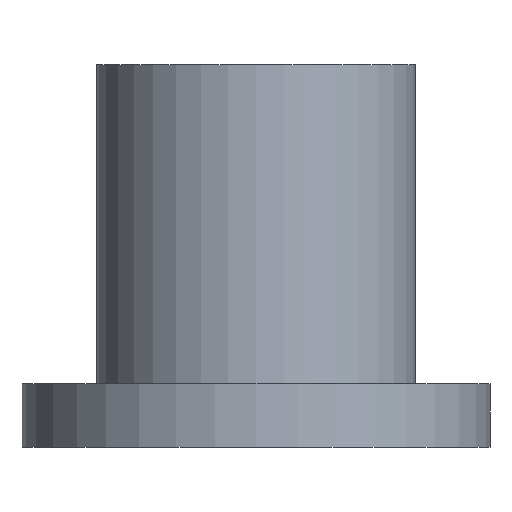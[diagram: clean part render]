
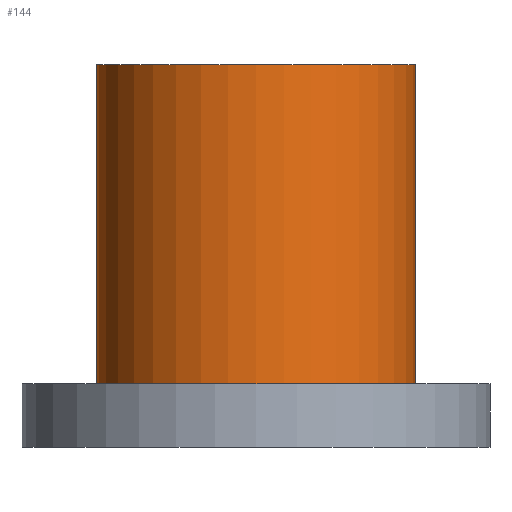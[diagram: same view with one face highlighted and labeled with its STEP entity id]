
A CAD part, front view. The second image highlights one B-rep face of the part: STEP entity #144.
In plain terms, the highlighted cylindrical face has radius 1.5 mm (diameter 3 mm), a full revolution.
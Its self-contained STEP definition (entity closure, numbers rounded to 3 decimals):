
#93 = PLANE('',#94);
#94 = AXIS2_PLACEMENT_3D('',#95,#96,#97);
#95 = CARTESIAN_POINT('',(0.,-20.,25.5));
#96 = DIRECTION('',(0.,0.,1.));
#97 = DIRECTION('',(1.,0.,-0.));
#116 = EDGE_CURVE('',#117,#117,#119,.T.);
#117 = VERTEX_POINT('',#118);
#118 = CARTESIAN_POINT('',(1.5,-20.,25.5));
#119 = SURFACE_CURVE('',#120,(#125,#132),.PCURVE_S1.);
#120 = CIRCLE('',#121,1.5);
#121 = AXIS2_PLACEMENT_3D('',#122,#123,#124);
#122 = CARTESIAN_POINT('',(0.,-20.,25.5));
#123 = DIRECTION('',(0.,0.,1.));
#124 = DIRECTION('',(1.,0.,-0.));
#125 = PCURVE('',#93,#126);
#126 = DEFINITIONAL_REPRESENTATION('',(#127),#131);
#127 = CIRCLE('',#128,1.5);
#128 = AXIS2_PLACEMENT_2D('',#129,#130);
#129 = CARTESIAN_POINT('',(0.,0.));
#130 = DIRECTION('',(1.,0.));
#131 = ( GEOMETRIC_REPRESENTATION_CONTEXT(2) 
PARAMETRIC_REPRESENTATION_CONTEXT() REPRESENTATION_CONTEXT('2D SPACE',''
  ) );
#132 = PCURVE('',#133,#138);
#133 = CYLINDRICAL_SURFACE('',#134,1.5);
#134 = AXIS2_PLACEMENT_3D('',#135,#136,#137);
#135 = CARTESIAN_POINT('',(0.,-20.,25.5));
#136 = DIRECTION('',(-0.,-0.,-1.));
#137 = DIRECTION('',(1.,0.,0.));
#138 = DEFINITIONAL_REPRESENTATION('',(#139),#143);
#139 = LINE('',#140,#141);
#140 = CARTESIAN_POINT('',(6.283,0.));
#141 = VECTOR('',#142,1.);
#142 = DIRECTION('',(-1.,0.));
#143 = ( GEOMETRIC_REPRESENTATION_CONTEXT(2) 
PARAMETRIC_REPRESENTATION_CONTEXT() REPRESENTATION_CONTEXT('2D SPACE',''
  ) );
#144 = ADVANCED_FACE('',(#145),#133,.T.);
#145 = FACE_BOUND('',#146,.T.);
#146 = EDGE_LOOP('',(#147,#148,#171,#198));
#147 = ORIENTED_EDGE('',*,*,#116,.T.);
#148 = ORIENTED_EDGE('',*,*,#149,.T.);
#149 = EDGE_CURVE('',#117,#150,#152,.T.);
#150 = VERTEX_POINT('',#151);
#151 = CARTESIAN_POINT('',(1.5,-20.,28.5));
#152 = SEAM_CURVE('',#153,(#157,#164),.PCURVE_S1.);
#153 = LINE('',#154,#155);
#154 = CARTESIAN_POINT('',(1.5,-20.,25.5));
#155 = VECTOR('',#156,1.);
#156 = DIRECTION('',(0.,0.,1.));
#157 = PCURVE('',#133,#158);
#158 = DEFINITIONAL_REPRESENTATION('',(#159),#163);
#159 = LINE('',#160,#161);
#160 = CARTESIAN_POINT('',(0.,0.));
#161 = VECTOR('',#162,1.);
#162 = DIRECTION('',(-0.,-1.));
#163 = ( GEOMETRIC_REPRESENTATION_CONTEXT(2) 
PARAMETRIC_REPRESENTATION_CONTEXT() REPRESENTATION_CONTEXT('2D SPACE',''
  ) );
#164 = PCURVE('',#133,#165);
#165 = DEFINITIONAL_REPRESENTATION('',(#166),#170);
#166 = LINE('',#167,#168);
#167 = CARTESIAN_POINT('',(6.283,0.));
#168 = VECTOR('',#169,1.);
#169 = DIRECTION('',(-0.,-1.));
#170 = ( GEOMETRIC_REPRESENTATION_CONTEXT(2) 
PARAMETRIC_REPRESENTATION_CONTEXT() REPRESENTATION_CONTEXT('2D SPACE',''
  ) );
#171 = ORIENTED_EDGE('',*,*,#172,.F.);
#172 = EDGE_CURVE('',#150,#150,#173,.T.);
#173 = SURFACE_CURVE('',#174,(#179,#186),.PCURVE_S1.);
#174 = CIRCLE('',#175,1.5);
#175 = AXIS2_PLACEMENT_3D('',#176,#177,#178);
#176 = CARTESIAN_POINT('',(0.,-20.,28.5));
#177 = DIRECTION('',(0.,0.,1.));
#178 = DIRECTION('',(1.,0.,-0.));
#179 = PCURVE('',#133,#180);
#180 = DEFINITIONAL_REPRESENTATION('',(#181),#185);
#181 = LINE('',#182,#183);
#182 = CARTESIAN_POINT('',(6.283,-3.));
#183 = VECTOR('',#184,1.);
#184 = DIRECTION('',(-1.,0.));
#185 = ( GEOMETRIC_REPRESENTATION_CONTEXT(2) 
PARAMETRIC_REPRESENTATION_CONTEXT() REPRESENTATION_CONTEXT('2D SPACE',''
  ) );
#186 = PCURVE('',#187,#192);
#187 = PLANE('',#188);
#188 = AXIS2_PLACEMENT_3D('',#189,#190,#191);
#189 = CARTESIAN_POINT('',(0.,-20.,28.5));
#190 = DIRECTION('',(0.,0.,1.));
#191 = DIRECTION('',(1.,0.,-0.));
#192 = DEFINITIONAL_REPRESENTATION('',(#193),#197);
#193 = CIRCLE('',#194,1.5);
#194 = AXIS2_PLACEMENT_2D('',#195,#196);
#195 = CARTESIAN_POINT('',(0.,0.));
#196 = DIRECTION('',(1.,0.));
#197 = ( GEOMETRIC_REPRESENTATION_CONTEXT(2) 
PARAMETRIC_REPRESENTATION_CONTEXT() REPRESENTATION_CONTEXT('2D SPACE',''
  ) );
#198 = ORIENTED_EDGE('',*,*,#149,.F.);
